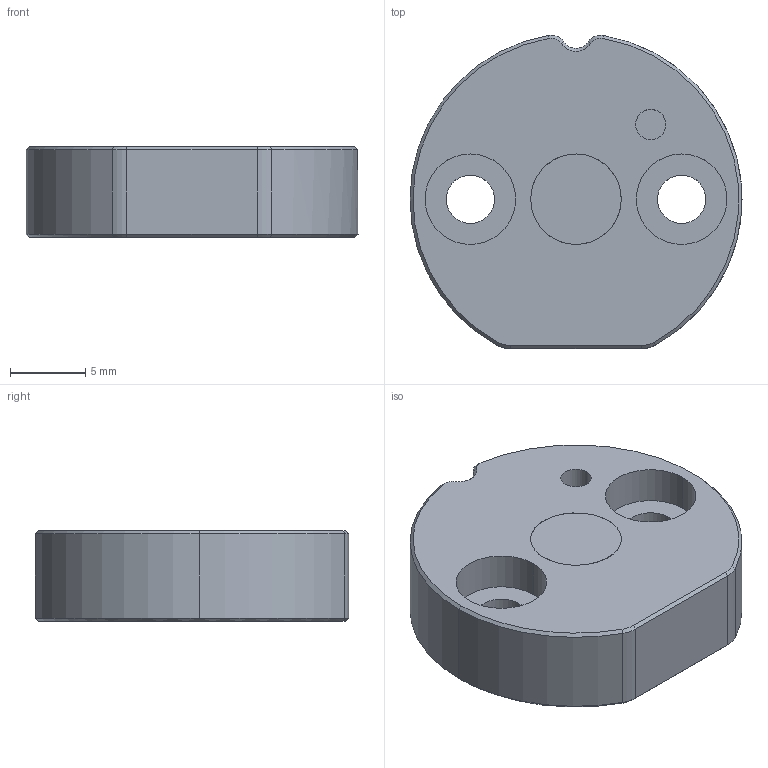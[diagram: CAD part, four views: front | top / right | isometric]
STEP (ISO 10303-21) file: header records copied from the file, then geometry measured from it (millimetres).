
FILE_DESCRIPTION (( 'STEP AP203' ), '1' );
FILE_NAME ('90.5001.STEP', '2024-10-04T13:52:44', ( '' ), ( '' ), 'SwSTEP 2.0', 'SolidWorks 2023', '' );
FILE_SCHEMA (( 'CONFIG_CONTROL_DESIGN' ));
Length unit declared in the file: millimetre
Products named in the file (1): 90.5001
Bounding box: 22 x 20.76 x 6 mm (x, y, z)
Volume: 2013.8 mm3; surface area: 1453.9 mm2
Topology: 2 solids, 2 shells, 54 faces, 116 edges, 71 vertices
Faces by surface type: cylinder 24, cone 16, plane 12, torus 2
Entity records: 1560 total; most frequent: DIRECTION 295, CARTESIAN_POINT 242, ORIENTED_EDGE 232, AXIS2_PLACEMENT_3D 124, EDGE_CURVE 116, VERTEX_POINT 71, CIRCLE 69, EDGE_LOOP 63
